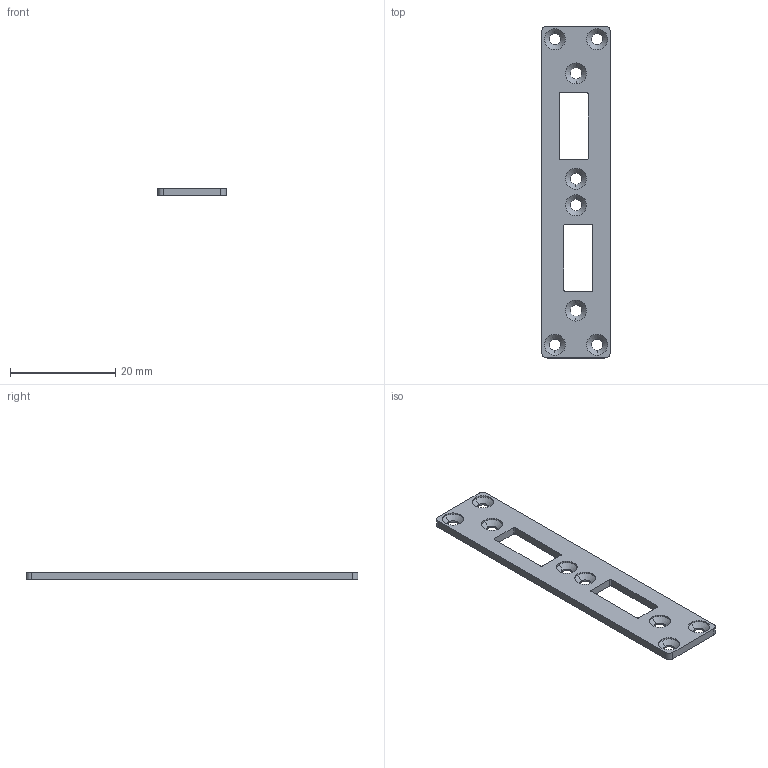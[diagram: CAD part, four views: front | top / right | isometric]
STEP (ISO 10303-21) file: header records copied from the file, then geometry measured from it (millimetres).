
FILE_DESCRIPTION(/* description */ ('VariCAD 2010-3.03 AP-214'),/* implementation_level */ '2;1');
FILE_NAME(/* name */ '0353-19-79',/* time_stamp */ '2011-03-01T19:39:45-07:00',/* author */ (''),/* organization */ (''),/* preprocessor_version */ 'ST-DEVELOPER v12',/* originating_system */ 'VariCAD 2010-3.03; kernel version (20100102)',/* authorisation */ '');
FILE_SCHEMA (('AUTOMOTIVE_DESIGN'));
Length unit declared in the file: millimetre
Products named in the file (1): Part
Bounding box: 13 x 63 x 1.5 mm (x, y, z)
Volume: 921 mm3; surface area: 1703.8 mm2
Topology: 1 solids, 1 shells, 74 faces, 184 edges, 112 vertices
Faces by surface type: cylinder 44, cone 16, plane 14
Entity records: 2267 total; most frequent: DIRECTION 424, CARTESIAN_POINT 372, ORIENTED_EDGE 368, EDGE_CURVE 184, AXIS2_PLACEMENT_3D 164, VERTEX_POINT 112, LINE 96, VECTOR 96
